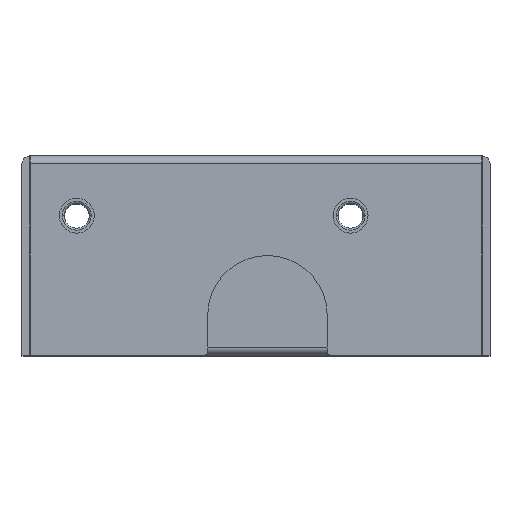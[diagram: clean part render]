
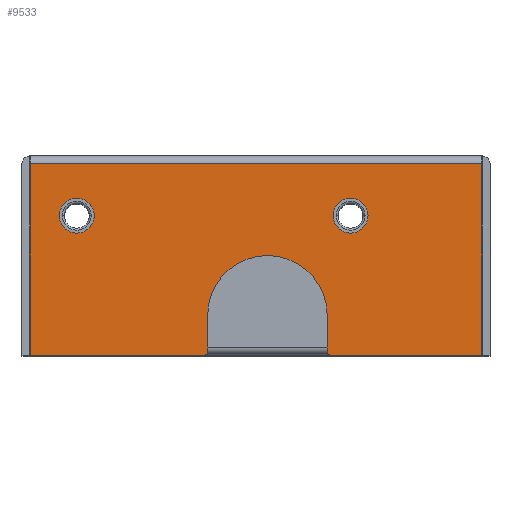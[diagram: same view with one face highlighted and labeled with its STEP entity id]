
A CAD part, top view. The second image highlights one B-rep face of the part: STEP entity #9533.
In plain terms, the highlighted planar face has unit normal (0, 0, 1) as drawn and (1, 0, 0) by its records, which use the part's own axes.
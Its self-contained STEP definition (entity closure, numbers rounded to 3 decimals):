
#7894=DIRECTION('',(0.,0.,1.));
#7895=VECTOR('',#7894,17.5);
#7896=CARTESIAN_POINT('',(27.5,0.,-22.65));
#7897=LINE('',#7896,#7895);
#7902=DIRECTION('',(0.,0.,1.));
#7903=VECTOR('',#7902,15.2);
#7904=CARTESIAN_POINT('',(27.5,0.,7.45));
#7905=LINE('',#7904,#7903);
#8074=CARTESIAN_POINT('',(27.5,-14.,-18.));
#8075=DIRECTION('',(-1.,0.,0.));
#8076=DIRECTION('',(0.,0.,-1.));
#8077=AXIS2_PLACEMENT_3D('',#8074,#8075,#8076);
#8079=CARTESIAN_POINT('',(27.5,-14.,-18.));
#8080=DIRECTION('',(-1.,0.,0.));
#8081=DIRECTION('',(0.,0.,1.));
#8082=AXIS2_PLACEMENT_3D('',#8079,#8080,#8081);
#8084=CARTESIAN_POINT('',(27.5,-14.,9.5));
#8085=DIRECTION('',(-1.,0.,0.));
#8086=DIRECTION('',(0.,0.,-1.));
#8087=AXIS2_PLACEMENT_3D('',#8084,#8085,#8086);
#8089=CARTESIAN_POINT('',(27.5,-14.,9.5));
#8090=DIRECTION('',(-1.,0.,0.));
#8091=DIRECTION('',(0.,0.,1.));
#8092=AXIS2_PLACEMENT_3D('',#8089,#8090,#8091);
#8116=CARTESIAN_POINT('',(27.5,-0.3,-5.15));
#8117=DIRECTION('',(1.,0.,0.));
#8118=DIRECTION('',(0.,1.,0.));
#8119=AXIS2_PLACEMENT_3D('',#8116,#8117,#8118);
#8121=DIRECTION('',(0.,-1.,0.));
#8122=VECTOR('',#8121,19.2);
#8123=CARTESIAN_POINT('',(27.5,0.,-22.65));
#8124=LINE('',#8123,#8122);
#8125=DIRECTION('',(0.,0.,1.));
#8126=VECTOR('',#8125,45.3);
#8127=CARTESIAN_POINT('',(27.5,-19.2,-22.65));
#8128=LINE('',#8127,#8126);
#8129=DIRECTION('',(0.,-1.,0.));
#8130=VECTOR('',#8129,19.2);
#8131=CARTESIAN_POINT('',(27.5,0.,22.65));
#8132=LINE('',#8131,#8130);
#8133=CARTESIAN_POINT('',(27.5,-0.3,7.45));
#8134=DIRECTION('',(1.,0.,0.));
#8135=DIRECTION('',(0.,0.,-1.));
#8136=AXIS2_PLACEMENT_3D('',#8133,#8134,#8135);
#8138=DIRECTION('',(0.,1.,0.));
#8139=VECTOR('',#8138,3.7);
#8140=CARTESIAN_POINT('',(27.5,-4.,7.15));
#8141=LINE('',#8140,#8139);
#8142=CARTESIAN_POINT('',(27.5,-4.,1.15));
#8143=DIRECTION('',(-1.,0.,0.));
#8144=DIRECTION('',(0.,0.,-1.));
#8145=AXIS2_PLACEMENT_3D('',#8142,#8143,#8144);
#8147=DIRECTION('',(0.,1.,0.));
#8148=VECTOR('',#8147,3.7);
#8149=CARTESIAN_POINT('',(27.5,-4.,-4.85));
#8150=LINE('',#8149,#8148);
#8514=CARTESIAN_POINT('',(27.5,-14.,-19.75));
#8515=CARTESIAN_POINT('',(27.5,-14.,-16.25));
#8516=VERTEX_POINT('',#8514);
#8517=VERTEX_POINT('',#8515);
#8518=CARTESIAN_POINT('',(27.5,-14.,7.75));
#8519=CARTESIAN_POINT('',(27.5,-14.,11.25));
#8520=VERTEX_POINT('',#8518);
#8521=VERTEX_POINT('',#8519);
#8522=CARTESIAN_POINT('',(27.5,-4.,-4.85));
#8523=CARTESIAN_POINT('',(27.5,-4.,7.15));
#8524=VERTEX_POINT('',#8522);
#8525=VERTEX_POINT('',#8523);
#8622=CARTESIAN_POINT('',(27.5,0.,22.65));
#8624=VERTEX_POINT('',#8622);
#8626=CARTESIAN_POINT('',(27.5,0.,-22.65));
#8628=VERTEX_POINT('',#8626);
#8647=CARTESIAN_POINT('',(27.5,-19.2,22.65));
#8649=VERTEX_POINT('',#8647);
#8650=CARTESIAN_POINT('',(27.5,-19.2,-22.65));
#8651=VERTEX_POINT('',#8650);
#8686=CARTESIAN_POINT('',(27.5,0.,-5.15));
#8687=CARTESIAN_POINT('',(27.5,-0.3,-4.85));
#8688=VERTEX_POINT('',#8686);
#8689=VERTEX_POINT('',#8687);
#8698=CARTESIAN_POINT('',(27.5,-0.3,7.15));
#8699=VERTEX_POINT('',#8698);
#8700=CARTESIAN_POINT('',(27.5,0.,7.45));
#8701=VERTEX_POINT('',#8700);
#9496=CARTESIAN_POINT('',(27.5,0.,-23.5));
#9497=DIRECTION('',(1.,0.,0.));
#9498=DIRECTION('',(0.,0.,1.));
#9499=AXIS2_PLACEMENT_3D('',#9496,#9497,#9498);
#9500=PLANE('',#9499);
#9502=ORIENTED_EDGE('',*,*,#9501,.F.);
#9503=ORIENTED_EDGE('',*,*,#9211,.F.);
#9505=ORIENTED_EDGE('',*,*,#9504,.T.);
#9507=ORIENTED_EDGE('',*,*,#9506,.T.);
#9509=ORIENTED_EDGE('',*,*,#9508,.F.);
#9510=ORIENTED_EDGE('',*,*,#9223,.F.);
#9512=ORIENTED_EDGE('',*,*,#9511,.F.);
#9514=ORIENTED_EDGE('',*,*,#9513,.F.);
#9516=ORIENTED_EDGE('',*,*,#9515,.F.);
#9518=ORIENTED_EDGE('',*,*,#9517,.T.);
#9519=EDGE_LOOP('',(#9502,#9503,#9505,#9507,#9509,#9510,#9512,#9514,#9516,
#9518));
#9520=FACE_OUTER_BOUND('',#9519,.F.);
#9522=ORIENTED_EDGE('',*,*,#9521,.F.);
#9524=ORIENTED_EDGE('',*,*,#9523,.F.);
#9525=EDGE_LOOP('',(#9522,#9524));
#9526=FACE_BOUND('',#9525,.F.);
#9528=ORIENTED_EDGE('',*,*,#9527,.F.);
#9530=ORIENTED_EDGE('',*,*,#9529,.F.);
#9531=EDGE_LOOP('',(#9528,#9530));
#9532=FACE_BOUND('',#9531,.F.);
#9533=ADVANCED_FACE('',(#9520,#9526,#9532),#9500,.T.);
#8078=CIRCLE('',#8077,1.75);
#8083=CIRCLE('',#8082,1.75);
#8088=CIRCLE('',#8087,1.75);
#8093=CIRCLE('',#8092,1.75);
#8120=CIRCLE('',#8119,0.3);
#8137=CIRCLE('',#8136,0.3);
#8146=CIRCLE('',#8145,6.);
#9211=EDGE_CURVE('',#8628,#8688,#7897,.T.);
#9223=EDGE_CURVE('',#8701,#8624,#7905,.T.);
#9501=EDGE_CURVE('',#8688,#8689,#8120,.T.);
#9504=EDGE_CURVE('',#8628,#8651,#8124,.T.);
#9506=EDGE_CURVE('',#8651,#8649,#8128,.T.);
#9508=EDGE_CURVE('',#8624,#8649,#8132,.T.);
#9511=EDGE_CURVE('',#8699,#8701,#8137,.T.);
#9513=EDGE_CURVE('',#8525,#8699,#8141,.T.);
#9515=EDGE_CURVE('',#8524,#8525,#8146,.T.);
#9517=EDGE_CURVE('',#8524,#8689,#8150,.T.);
#9521=EDGE_CURVE('',#8516,#8517,#8078,.T.);
#9523=EDGE_CURVE('',#8517,#8516,#8083,.T.);
#9527=EDGE_CURVE('',#8520,#8521,#8088,.T.);
#9529=EDGE_CURVE('',#8521,#8520,#8093,.T.);
